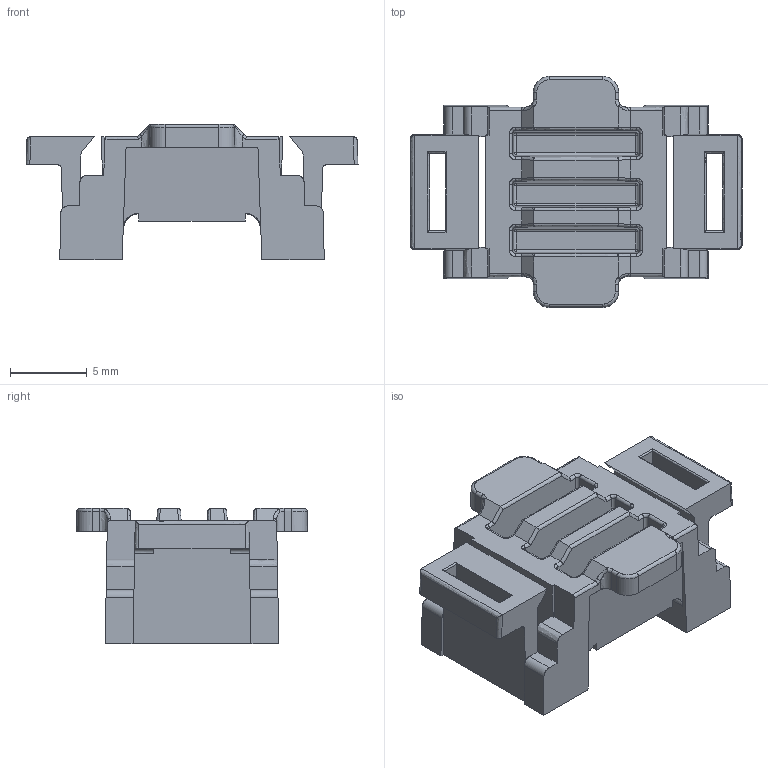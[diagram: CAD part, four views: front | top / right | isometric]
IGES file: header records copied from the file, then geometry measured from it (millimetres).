
Start section: SolidWorks IGES file using analytic representation for surfaces
Global section: file name: C:\Users\vuorinen_kari\Desktop\prj\P00010_LC_HYBRIDI\vedonpoistaja\D007808.IGS; native system: SolidWorks 2014; preprocessor: SolidWorks 2014; author: vuorinen_kari; date: 180404.101342; units: millimetre
Bounding box: 21.63 x 15.05 x 8.8 mm (x, y, z)
Surface area: 1445.7 mm2 (no closed solid volume)
Topology: 0 solids, 0 shells, 282 faces, 1982 edges, 1982 vertices
Faces by surface type: bspline 171, revolution 111
